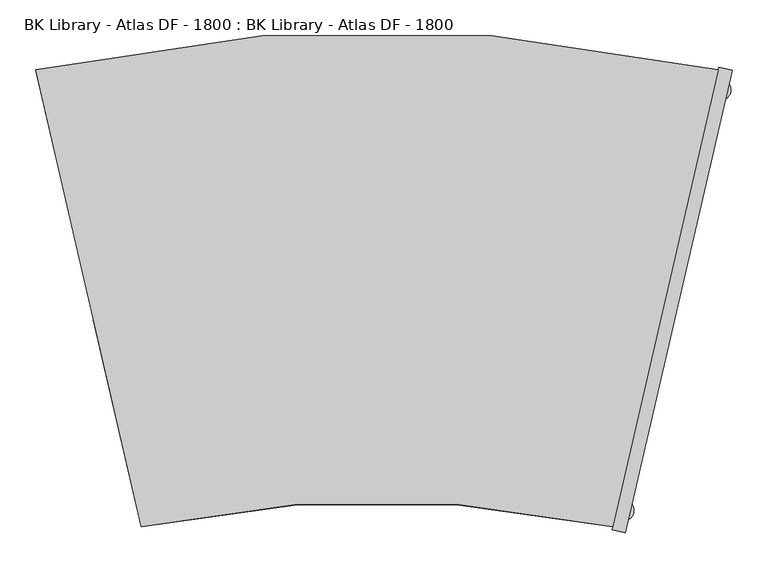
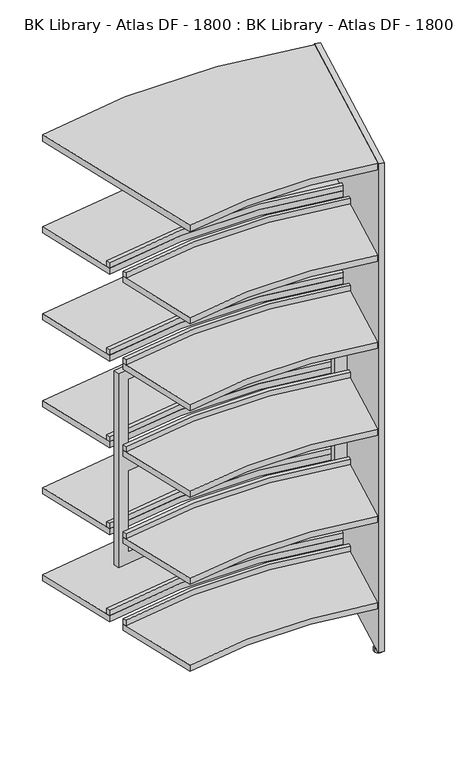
"""IFC4 building model written with IfcOpenShell, lengths in millimetres: furniture geometry, BK Library - Atlas DF - 1800 : BK Library - Atlas DF - 1800."""

import ifcopenshell
import ifcopenshell.guid

model = None  # the IFC model being written
_history = None  # IfcOwnerHistory: only IFC2X3 demands one
_inside = {}  # id of a spatial element -> (the spatial element, [elements in it])
_under = {}  # id of a project, library or spatial element -> (it, [spatial elements below it])
_declared = {}  # id of a project -> (the project, [libraries it declares])
_typed = {}  # id of a type object -> (the type object, [elements of that type])
_made_of = {}  # id of a material, layer set ... -> (it, [elements and type objects made of it])


def new_model(schema):
    """Start an empty IFC model of exactly this schema.

    Asked for "IFC4X3", IfcOpenShell would pick the latest addendum, in which some entities
    have other attributes; the version numbers below select the first issue.
    IFC2X3 requires an IfcOwnerHistory on every rooted entity: one is made here for all.
    """
    global model, _history
    if schema == "IFC4X3":
        model = ifcopenshell.file(schema_version=(4, 3, 0, 0))
    else:
        model = ifcopenshell.file(schema=schema)
    _inside.clear()
    _under.clear()
    _declared.clear()
    _typed.clear()
    _made_of.clear()
    _history = None
    if model.schema == "IFC2X3":
        org = make("IfcOrganization", Name="unknown")
        user = make(
            "IfcPersonAndOrganization",
            ThePerson=make("IfcPerson", FamilyName="unknown"),
            TheOrganization=org,
        )
        app = make(
            "IfcApplication",
            ApplicationDeveloper=org,
            Version="unknown",
            ApplicationFullName="unknown",
            ApplicationIdentifier="unknown",
        )
        _history = make(
            "IfcOwnerHistory",
            OwningUser=user,
            OwningApplication=app,
            ChangeAction="ADDED",
            CreationDate=0,
        )
    return model


def make(cls, **values):
    """One entity of the class cls with the attributes given. An attribute that is None is left unset."""
    return model.create_entity(
        cls, **{name: value for name, value in values.items() if value is not None}
    )


def rooted(cls, **values):
    """An entity with a GlobalId (a new one), such as an element, a storey or a relation."""
    return make(cls, GlobalId=ifcopenshell.guid.new(), OwnerHistory=_history, **values)


def si_unit(unit_type, name, prefix=None):
    """IfcSIUnit, for example si_unit("LENGTHUNIT", "METRE", prefix="MILLI")."""
    return make("IfcSIUnit", UnitType=unit_type, Prefix=prefix, Name=name)


def assignment(units):
    """IfcUnitAssignment: the units of a project."""
    return None if units is None else make("IfcUnitAssignment", Units=units)


def point(xyz):
    """IfcCartesianPoint."""
    return None if xyz is None else make("IfcCartesianPoint", Coordinates=xyz)


def direction(xyz):
    """IfcDirection."""
    return None if xyz is None else make("IfcDirection", DirectionRatios=xyz)


def frame(location, z_axis=None, x_axis=None):
    """IfcAxis2Placement3D, a coordinate frame: its origin and axes. An axis left out is left unset."""
    return make(
        "IfcAxis2Placement3D",
        Location=point(location),
        Axis=direction(z_axis),
        RefDirection=direction(x_axis),
    )


def frame_2d(location, x_axis=None):
    """IfcAxis2Placement2D, a coordinate frame in the plane: its origin and x axis."""
    return make(
        "IfcAxis2Placement2D", Location=point(location), RefDirection=direction(x_axis)
    )


def origin():
    """The frame at (0, 0, 0) with its axes left unset."""
    return frame((0.0, 0.0, 0.0))


def origin_with_axes():
    """The frame at (0, 0, 0) with the z axis (0, 0, 1) and the x axis (1, 0, 0) written out."""
    return frame((0.0, 0.0, 0.0), z_axis=(0.0, 0.0, 1.0), x_axis=(1.0, 0.0, 0.0))


def place(relative_to, where):
    """IfcLocalPlacement: puts the frame where relative to a parent placement (None: the world)."""
    return make(
        "IfcLocalPlacement", PlacementRelTo=relative_to, RelativePlacement=where
    )


def context(
    kind, dimensions, precision=None, world=None, true_north=None, identifier=None
):
    """IfcGeometricRepresentationContext, for example the 3D "Model" context."""
    return make(
        "IfcGeometricRepresentationContext",
        ContextIdentifier=identifier,
        ContextType=kind,
        CoordinateSpaceDimension=dimensions,
        Precision=precision,
        WorldCoordinateSystem=world,
        TrueNorth=true_north,
    )


def project(units=None, contexts=None):
    """IfcProject with its units and contexts."""
    return rooted(
        "IfcProject",
        Name="project",
        RepresentationContexts=contexts,
        UnitsInContext=assignment(units),
    )


def spatial(cls, under=None, at=None, **own):
    """A site, building, storey or space (cls), placed at a placement, below another one or the project."""
    s = rooted(cls, ObjectPlacement=at, **own)
    if under is not None:
        _under.setdefault(under.id(), (under, []))[1].append(s)
    return s


def polyline(points):
    """IfcPolyline through the points."""
    return make("IfcPolyline", Points=[point(p) for p in points])


def circle_curve(where, radius):
    """IfcCircle in the frame where."""
    return make("IfcCircle", Position=where, Radius=radius)


def trimmed(basis, trim1, trim2, sense, master):
    """IfcTrimmedCurve: the piece of a basis curve between two trims."""
    return make(
        "IfcTrimmedCurve",
        BasisCurve=basis,
        Trim1=trim1,
        Trim2=trim2,
        SenseAgreement=sense,
        MasterRepresentation=master,
    )


def segment(curve, same_sense, transition):
    """IfcCompositeCurveSegment."""
    return make(
        "IfcCompositeCurveSegment",
        Transition=transition,
        SameSense=same_sense,
        ParentCurve=curve,
    )


def composite_curve(segments, self_intersect=None):
    """IfcCompositeCurve: segments joined end to end."""
    return make("IfcCompositeCurve", Segments=segments, SelfIntersect=self_intersect)


def outline(outer, holes=None, kind="AREA"):
    """IfcArbitraryClosedProfileDef: a profile drawn as a closed curve; with holes, ...WithVoids."""
    if holes is None:
        return make("IfcArbitraryClosedProfileDef", ProfileType=kind, OuterCurve=outer)
    return make(
        "IfcArbitraryProfileDefWithVoids",
        ProfileType=kind,
        OuterCurve=outer,
        InnerCurves=holes,
    )


def extrude(swept, where, along, depth):
    """IfcExtrudedAreaSolid: the profile swept, set in the frame where, extruded along a direction by depth."""
    return make(
        "IfcExtrudedAreaSolid",
        SweptArea=swept,
        Position=where,
        ExtrudedDirection=direction(along),
        Depth=depth,
    )


def shape(context_of_items, identifier, shape_type, items):
    """IfcShapeRepresentation: the items that make up one representation, for example the "Body"."""
    return make(
        "IfcShapeRepresentation",
        ContextOfItems=context_of_items,
        RepresentationIdentifier=identifier,
        RepresentationType=shape_type,
        Items=items,
    )


def source(mapping_origin, context_of_items, identifier, shape_type, items):
    """IfcRepresentationMap: a shape defined once, which mapped items show again and again."""
    return make(
        "IfcRepresentationMap",
        MappingOrigin=mapping_origin,
        MappedRepresentation=shape(context_of_items, identifier, shape_type, items),
    )


def transform(
    local_origin,
    x_axis=None,
    y_axis=None,
    z_axis=None,
    scale=None,
    scale2=None,
    scale3=None,
    uniform=True,
):
    """IfcCartesianTransformationOperator3D, or its non-uniform kind. x_axis, y_axis, z_axis: its Axis1, 2, 3."""
    if uniform:
        return make(
            "IfcCartesianTransformationOperator3D",
            Axis1=direction(x_axis),
            Axis2=direction(y_axis),
            LocalOrigin=point(local_origin),
            Scale=scale,
            Axis3=direction(z_axis),
        )
    return make(
        "IfcCartesianTransformationOperator3DnonUniform",
        Axis1=direction(x_axis),
        Axis2=direction(y_axis),
        LocalOrigin=point(local_origin),
        Scale=scale,
        Axis3=direction(z_axis),
        Scale2=scale2,
        Scale3=scale3,
    )


def mapped(mapping_source, mapping_target):
    """IfcMappedItem: shows the shape of a source again, moved by a transform."""
    return make(
        "IfcMappedItem", MappingSource=mapping_source, MappingTarget=mapping_target
    )


def made_of(thing, what):
    """Note that an element or type object is made of a material, layer set ...; save() writes the relation."""
    if what is not None:
        _made_of.setdefault(what.id(), (what, []))[1].append(thing)
    return thing


def element(
    cls,
    number,
    at=None,
    inside=None,
    cuts=None,
    type_object=None,
    material=None,
    context=None,
    identifier="Body",
    shape_type=None,
    held_by="IfcProductDefinitionShape",
    body=None,
    shapes=None,
    **own,
):
    """One element of the class cls, such as IfcWall. Its Tag is "e" and its number.

    at: its placement. inside: the storey or other place that contains it. cuts: it is an
    opening in that element (IfcRelVoidsElement). A single representation is given by context,
    identifier, shape_type and body (its items); several are given by shapes. held_by: the class
    of the entity that holds the representations. save() writes the other relations.
    """
    e = rooted(cls, Tag="e%d" % number, ObjectPlacement=at, **own)
    if body is not None:
        shapes = [shape(context, identifier, shape_type, body)]
    if shapes is not None:
        e.Representation = make(held_by, Representations=shapes)
    if inside is not None:
        _inside.setdefault(inside.id(), (inside, []))[1].append(e)
    if cuts is not None:
        rooted(
            "IfcRelVoidsElement", RelatingBuildingElement=cuts, RelatedOpeningElement=e
        )
    if type_object is not None:
        _typed.setdefault(type_object.id(), (type_object, []))[1].append(e)
    return made_of(e, material)


def aggregate(whole, parts):
    """IfcRelAggregates: a whole, such as a stair, and the parts it consists of."""
    return rooted("IfcRelAggregates", RelatingObject=whole, RelatedObjects=parts)


def save(model, path):
    """Write the relations noted so far, then the file.

    IfcRelAggregates (storeys below a building ...), IfcRelContainedInSpatialStructure (elements
    in a storey), IfcRelDefinesByType, IfcRelAssociatesMaterial and IfcRelDeclares: one each for
    every whole, place, type object, material and project.
    """
    for whole, parts in _under.values():
        aggregate(whole, parts)
    for where, things in _inside.values():
        rooted(
            "IfcRelContainedInSpatialStructure",
            RelatedElements=things,
            RelatingStructure=where,
        )
    for kind, things in _typed.values():
        rooted("IfcRelDefinesByType", RelatedObjects=things, RelatingType=kind)
    for what, things in _made_of.values():
        rooted("IfcRelAssociatesMaterial", RelatedObjects=things, RelatingMaterial=what)
    for by, libraries in _declared.values():
        rooted("IfcRelDeclares", RelatingContext=by, RelatedDefinitions=libraries)
    model.write(path)


def plane_surface(at):
    """IfcPlane: the flat surface through the origin of the frame at, square to its z axis."""
    return make("IfcPlane", Position=at)


def cylinder_surface(at, radius):
    """IfcCylindricalSurface: all points at the distance radius from the z axis of the frame at."""
    return make("IfcCylindricalSurface", Position=at, Radius=radius)


def revolved_surface(curve, axis_point, axis_direction):
    """IfcSurfaceOfRevolution: the curve turned about the line through axis_point along axis_direction."""
    return make(
        "IfcSurfaceOfRevolution",
        SweptCurve=make("IfcArbitraryOpenProfileDef", ProfileType="CURVE", Curve=curve),
        AxisPosition=make("IfcAxis1Placement", Location=point(axis_point), Axis=direction(axis_direction)),
    )


def advanced_brep(points, edges, surfaces, faces):
    """IfcAdvancedBrep: a solid bounded by faces that lie on surfaces and meet in shared edges.

    An edge is (start, end): straight between two places in points (the first is 0);
    or (start, end, curve); or (start, end, curve, False) where it runs against its curve.
    A face is (place in surfaces, loops), or (place, loops, False) where it looks against
    its surface's normal. A loop lists edges by number (the first is 1), with a minus sign
    where the edge is run from its end to its start. The first loop is the outer one.
    """
    corners = [point(p) for p in points]
    vertices = [make("IfcVertexPoint", VertexGeometry=c) for c in corners]
    made = []
    for start, end, *more in edges:
        made.append(
            make(
                "IfcEdgeCurve",
                EdgeStart=vertices[start],
                EdgeEnd=vertices[end],
                EdgeGeometry=more[0] if more else make("IfcPolyline", Points=[corners[start], corners[end]]),
                SameSense=more[1] if len(more) > 1 else True,
            )
        )
    hull = []
    for where, loops, *sense in faces:
        bounds = []
        for j, loop in enumerate(loops):
            ring = [make("IfcOrientedEdge", EdgeElement=made[abs(k) - 1], Orientation=k > 0) for k in loop]
            bounds.append(
                make(
                    "IfcFaceOuterBound" if j == 0 else "IfcFaceBound",
                    Bound=make("IfcEdgeLoop", EdgeList=ring),
                    Orientation=True,
                )
            )
        hull.append(make("IfcAdvancedFace", Bounds=bounds, FaceSurface=surfaces[where], SameSense=sense[0] if sense else True))
    return make("IfcAdvancedBrep", Outer=make("IfcClosedShell", CfsFaces=hull))


def bk_library_atlas_df_1800_bk_library_atlas_df_1800_6cbebfb4(model_context):
    return source(origin(), model_context, "Body", "SolidModel", [
        advanced_brep(
        [(-403.1922937, 9.7442892, 1106.1999998), (-398.6983746, -9.7442892, 1106.1999998), (398.6983746, -9.7442892, 1106.1999998), (403.1922937, 9.7442892, 1106.1999998), (-403.1922937, 9.7442892, 391.1999998), (403.1922937, 9.7442892, 391.1999998), (398.6983746, -9.7442892, 391.1999998), (-398.6983746, -9.7442892, 391.1999998), (359.7000463, -1.6061954, 1066.1999998), (359.7000463, -1.6061954, 768.6999998), (-359.7212176, -1.6103769, 768.6999998), (-359.7212176, -1.6103769, 1066.1999998), (-359.7212176, -1.6103769, 728.6999998), (359.7000463, -1.6061954, 728.6999998), (359.7000463, -1.6061954, 431.1999998), (-359.7212176, -1.6103769, 431.1999998), (359.7000463, 18.8192746, 768.6999998), (359.7000463, 18.8192746, 1066.1999998), (-359.7212176, 18.8151191, 1066.1999998), (-359.7212176, 18.8151191, 768.6999998), (359.7000463, 18.8192746, 728.6999998), (-359.7212176, 18.8151191, 728.6999998), (-359.7212176, 18.8151191, 431.1999998), (359.7000463, 18.8192746, 431.1999998)],
        [
            (0, 1),
            (1, 2, circle_curve(frame((0.0, -1822.824997, 1106.1999998), z_axis=(0.0, 0.0, -1.0), x_axis=(1.0, 0.0, 0.0)), 1856.4002927)),
            (2, 3),
            (3, 0, circle_curve(frame((0.0, -1813.8149651, 1106.1999998), z_axis=(0.0, 0.0, 1.0), x_axis=(1.0, 0.0, 0.0)), 1867.6007014)),
            (4, 5, circle_curve(frame((0.0, -1813.8149651, 391.1999998), z_axis=(0.0, 0.0, -1.0), x_axis=(1.0, 0.0, 0.0)), 1867.6007014)),
            (5, 6),
            (6, 7, circle_curve(frame((0.0, -1822.824997, 391.1999998), z_axis=(0.0, 0.0, 1.0), x_axis=(1.0, 0.0, 0.0)), 1856.4002927)),
            (7, 4),
            (0, 4),
            (7, 1),
            (2, 6),
            (5, 3),
            (8, 9),
            (9, 10, circle_curve(frame((0.0, -1822.824997, 768.6999998), z_axis=(0.0, 0.0, 1.0), x_axis=(1.0, 0.0, 0.0)), 1856.4002927)),
            (10, 11),
            (11, 8, circle_curve(frame((0.0, -1822.824997, 1066.1999998), z_axis=(0.0, 0.0, -1.0), x_axis=(1.0, 0.0, 0.0)), 1856.4002927)),
            (12, 13, circle_curve(frame((0.0, -1822.824997, 728.6999998), z_axis=(0.0, 0.0, -1.0), x_axis=(1.0, 0.0, 0.0)), 1856.4002927)),
            (13, 14),
            (14, 15, circle_curve(frame((0.0, -1822.824997, 431.1999998), z_axis=(0.0, 0.0, 1.0), x_axis=(1.0, 0.0, 0.0)), 1856.4002927)),
            (15, 12),
            (16, 17),
            (17, 18, circle_curve(frame((0.0, -1813.8149651, 1066.1999998), z_axis=(0.0, 0.0, 1.0), x_axis=(1.0, 0.0, 0.0)), 1867.6007014)),
            (18, 19),
            (19, 16, circle_curve(frame((0.0, -1813.8149651, 768.6999998), z_axis=(0.0, 0.0, -1.0), x_axis=(1.0, 0.0, 0.0)), 1867.6007014)),
            (20, 21, circle_curve(frame((0.0, -1813.8149651, 728.6999998), z_axis=(0.0, 0.0, 1.0), x_axis=(1.0, 0.0, 0.0)), 1867.6007014)),
            (21, 22),
            (22, 23, circle_curve(frame((0.0, -1813.8149651, 431.1999998), z_axis=(0.0, 0.0, -1.0), x_axis=(1.0, 0.0, 0.0)), 1867.6007014)),
            (23, 20),
            (16, 9),
            (8, 17),
            (11, 18),
            (10, 19),
            (20, 13),
            (12, 21),
            (15, 22),
            (14, 23),
        ],
        [
            plane_surface(frame((-326.7956683, -321.5615447, 1106.1999998), z_axis=(0.0, 0.0, 1.0), x_axis=(0.224695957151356, -0.9744289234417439, 0.0))),
            plane_surface(frame((-326.7956683, -321.5615447, 391.1999998), z_axis=(0.0, 0.0, -1.0), x_axis=(-0.224695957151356, 0.9744289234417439, 0.0))),
            plane_surface(frame((-403.1922937, 9.7442892, 1106.1999998), z_axis=(-0.9744289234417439, -0.224695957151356, 0.0), x_axis=(0.0, 0.0, -1.0))),
            plane_surface(frame((398.6983746, -9.7442892, 1106.1999998), z_axis=(0.974428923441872, -0.22469595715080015, 0.0), x_axis=(0.0, 0.0, -1.0))),
            revolved_surface(polyline([(1856.4002927, -1822.824997, 391.1999998), (1856.4002927, -1822.824997, 1106.1999998)]), (0.0, -1822.824997, 391.1999998), (0.0, 0.0, -1.0)),
            cylinder_surface(frame((0.0, -1813.8149651, 391.1999998), z_axis=(0.0, 0.0, 1.0), x_axis=(1.0, 0.0, 0.0)), 1867.6007014),
            plane_surface(frame((359.7000463, -114.4923923, 768.6999998), z_axis=(-1.0, 0.0, 0.0), x_axis=(0.0, 1.0, 0.0))),
            plane_surface(frame((359.7000463, -114.4923923, 1066.1999998), z_axis=(0.0, 0.0, -1.0), x_axis=(0.0, 1.0, 0.0))),
            plane_surface(frame((-359.7212176, -114.4923923, 1066.1999998), z_axis=(1.0, 0.0, 0.0), x_axis=(0.0, 1.0, 0.0))),
            plane_surface(frame((-359.7212176, -114.4923923, 768.6999998), z_axis=(0.0, 0.0, 1.0), x_axis=(0.0, 1.0, 0.0))),
            plane_surface(frame((359.7000463, -114.4923923, 728.6999998), z_axis=(0.0, 0.0, -1.0), x_axis=(0.0, 1.0, 0.0))),
            plane_surface(frame((-359.7212176, -114.4923923, 728.6999998), z_axis=(1.0, 0.0, 0.0), x_axis=(0.0, 1.0, 0.0))),
            plane_surface(frame((-359.7212176, -114.4923923, 431.1999998), z_axis=(0.0, 0.0, 1.0), x_axis=(0.0, 1.0, 0.0))),
            plane_surface(frame((359.7000463, -114.4923923, 431.1999998), z_axis=(-1.0, 0.0, 0.0), x_axis=(0.0, 1.0, 0.0))),
        ],
        [
            (0, [[1, 2, 3, 4]]),
            (1, [[5, 6, 7, 8]]),
            (2, [[-1, 9, -8, 10]]),
            (3, [[-3, 11, -6, 12]]),
            (4, [[-2, -10, -7, -11], [13, 14, 15, 16], [17, 18, 19, 20]]),
            (5, [[-4, -12, -5, -9], [21, 22, 23, 24], [25, 26, 27, 28]]),
            (6, [[29, -13, 30, -21]]),
            (7, [[-30, -16, 31, -22]]),
            (8, [[-31, -15, 32, -23]]),
            (9, [[-29, -24, -32, -14]]),
            (10, [[33, -17, 34, -25]]),
            (11, [[-34, -20, 35, -26]]),
            (12, [[-35, -19, 36, -27]]),
            (13, [[-33, -28, -36, -18]]),
        ],
    ),
        extrude(outline(composite_curve([segment(trimmed(circle_curve(frame_2d((0.0, -1840.4430404)), 1557.6392973), [point((327.6944521, -317.663829))], [point((-327.6944521, -317.663829))], True, "CARTESIAN"), True, "CONTINUOUS"), segment(polyline([(-327.6944521, -317.663829), (-394.2058088, -29.2269986)]), True, "CONTINUOUS"), segment(trimmed(circle_curve(frame_2d((0.0, -1785.1487517)), 1799.627579), [point((-394.2058088, -29.2269986))], [point((394.2058088, -29.2269986))], False, "CARTESIAN"), True, "CONTINUOUS"), segment(polyline([(394.2058088, -29.2269986), (327.6944521, -317.663829)]), True, "CONTINUOUS")], self_intersect=False)), frame((0.0, 0.0, 171.6999998), z_axis=(0.0, 0.0, 1.0), x_axis=(1.0, 0.0, 0.0)), (0.0, 0.0, 1.0), 22.0),
        extrude(outline(composite_curve([segment(trimmed(circle_curve(frame_2d((0.0, -1777.8812307)), 2148.52767), [point((-474.1962162, 317.663829))], [point((474.1962162, 317.663829))], False, "CARTESIAN"), True, "CONTINUOUS"), segment(polyline([(474.1962162, 317.663829), (407.6853202, 29.2289965)]), True, "CONTINUOUS"), segment(trimmed(circle_curve(frame_2d((0.0, -1798.2835703)), 1872.4341116), [point((407.6853202, 29.2289965))], [point((-407.6853202, 29.2289965))], True, "CARTESIAN"), True, "CONTINUOUS"), segment(polyline([(-407.6853202, 29.2289965), (-474.1962162, 317.663829)]), True, "CONTINUOUS")], self_intersect=False)), frame((0.0, 0.0, 171.6999998), z_axis=(0.0, 0.0, 1.0), x_axis=(1.0, 0.0, 0.0)), (0.0, 0.0, 1.0), 22.0),
        extrude(outline(composite_curve([segment(trimmed(circle_curve(frame_2d((0.0, -1840.4430404)), 1557.6392973), [point((327.6944521, -317.663829))], [point((-327.6944521, -317.663829))], True, "CARTESIAN"), True, "CONTINUOUS"), segment(polyline([(-327.6944521, -317.663829), (-394.2058088, -29.2269986)]), True, "CONTINUOUS"), segment(trimmed(circle_curve(frame_2d((0.0, -1785.1487517)), 1799.627579), [point((-394.2058088, -29.2269986))], [point((394.2058088, -29.2269986))], False, "CARTESIAN"), True, "CONTINUOUS"), segment(polyline([(394.2058088, -29.2269986), (327.6944521, -317.663829)]), True, "CONTINUOUS")], self_intersect=False)), frame((0.0, 0.0, 491.6999998), z_axis=(0.0, 0.0, 1.0), x_axis=(1.0, 0.0, 0.0)), (0.0, 0.0, 1.0), 22.0),
        extrude(outline(composite_curve([segment(trimmed(circle_curve(frame_2d((0.0, -1777.8812307)), 2148.52767), [point((-474.1962162, 317.663829))], [point((474.1962162, 317.663829))], False, "CARTESIAN"), True, "CONTINUOUS"), segment(polyline([(474.1962162, 317.663829), (407.6853202, 29.2289965)]), True, "CONTINUOUS"), segment(trimmed(circle_curve(frame_2d((0.0, -1798.2835703)), 1872.4341116), [point((407.6853202, 29.2289965))], [point((-407.6853202, 29.2289965))], True, "CARTESIAN"), True, "CONTINUOUS"), segment(polyline([(-407.6853202, 29.2289965), (-474.1962162, 317.663829)]), True, "CONTINUOUS")], self_intersect=False)), frame((0.0, 0.0, 491.6999998), z_axis=(0.0, 0.0, 1.0), x_axis=(1.0, 0.0, 0.0)), (0.0, 0.0, 1.0), 22.0),
        extrude(outline(composite_curve([segment(trimmed(circle_curve(frame_2d((0.0, -1840.4430404)), 1557.6392973), [point((327.6944521, -317.663829))], [point((-327.6944521, -317.663829))], True, "CARTESIAN"), True, "CONTINUOUS"), segment(polyline([(-327.6944521, -317.663829), (-394.2058088, -29.2269986)]), True, "CONTINUOUS"), segment(trimmed(circle_curve(frame_2d((0.0, -1785.1487517)), 1799.627579), [point((-394.2058088, -29.2269986))], [point((394.2058088, -29.2269986))], False, "CARTESIAN"), True, "CONTINUOUS"), segment(polyline([(394.2058088, -29.2269986), (327.6944521, -317.663829)]), True, "CONTINUOUS")], self_intersect=False)), frame((0.0, 0.0, 811.6999998), z_axis=(0.0, 0.0, 1.0), x_axis=(1.0, 0.0, 0.0)), (0.0, 0.0, 1.0), 22.0),
        extrude(outline(composite_curve([segment(trimmed(circle_curve(frame_2d((0.0, -1777.8812307)), 2148.52767), [point((-474.1962162, 317.663829))], [point((474.1962162, 317.663829))], False, "CARTESIAN"), True, "CONTINUOUS"), segment(polyline([(474.1962162, 317.663829), (407.6853202, 29.2289965)]), True, "CONTINUOUS"), segment(trimmed(circle_curve(frame_2d((0.0, -1798.2835703)), 1872.4341116), [point((407.6853202, 29.2289965))], [point((-407.6853202, 29.2289965))], True, "CARTESIAN"), True, "CONTINUOUS"), segment(polyline([(-407.6853202, 29.2289965), (-474.1962162, 317.663829)]), True, "CONTINUOUS")], self_intersect=False)), frame((0.0, 0.0, 811.6999998), z_axis=(0.0, 0.0, 1.0), x_axis=(1.0, 0.0, 0.0)), (0.0, 0.0, 1.0), 22.0),
        extrude(outline(composite_curve([segment(trimmed(circle_curve(frame_2d((0.0, -1840.4430404)), 1557.6392973), [point((327.6944521, -317.663829))], [point((-327.6944521, -317.663829))], True, "CARTESIAN"), True, "CONTINUOUS"), segment(polyline([(-327.6944521, -317.663829), (-394.2058088, -29.2269986)]), True, "CONTINUOUS"), segment(trimmed(circle_curve(frame_2d((0.0, -1785.1487517)), 1799.627579), [point((-394.2058088, -29.2269986))], [point((394.2058088, -29.2269986))], False, "CARTESIAN"), True, "CONTINUOUS"), segment(polyline([(394.2058088, -29.2269986), (327.6944521, -317.663829)]), True, "CONTINUOUS")], self_intersect=False)), frame((0.0, 0.0, 1131.6999998), z_axis=(0.0, 0.0, 1.0), x_axis=(1.0, 0.0, 0.0)), (0.0, 0.0, 1.0), 22.0),
        extrude(outline(composite_curve([segment(trimmed(circle_curve(frame_2d((0.0, -1777.8812307)), 2148.52767), [point((-474.1962162, 317.663829))], [point((474.1962162, 317.663829))], False, "CARTESIAN"), True, "CONTINUOUS"), segment(polyline([(474.1962162, 317.663829), (407.6853202, 29.2289965)]), True, "CONTINUOUS"), segment(trimmed(circle_curve(frame_2d((0.0, -1798.2835703)), 1872.4341116), [point((407.6853202, 29.2289965))], [point((-407.6853202, 29.2289965))], True, "CARTESIAN"), True, "CONTINUOUS"), segment(polyline([(-407.6853202, 29.2289965), (-474.1962162, 317.663829)]), True, "CONTINUOUS")], self_intersect=False)), frame((0.0, 0.0, 1131.6999998), z_axis=(0.0, 0.0, 1.0), x_axis=(1.0, 0.0, 0.0)), (0.0, 0.0, 1.0), 22.0),
        extrude(outline(composite_curve([segment(trimmed(circle_curve(frame_2d((0.0, -1840.4430404)), 1557.6392973), [point((327.6944521, -317.663829))], [point((-327.6944521, -317.663829))], True, "CARTESIAN"), True, "CONTINUOUS"), segment(polyline([(-327.6944521, -317.663829), (-394.2058088, -29.2269986)]), True, "CONTINUOUS"), segment(trimmed(circle_curve(frame_2d((0.0, -1785.1487517)), 1799.627579), [point((-394.2058088, -29.2269986))], [point((394.2058088, -29.2269986))], False, "CARTESIAN"), True, "CONTINUOUS"), segment(polyline([(394.2058088, -29.2269986), (327.6944521, -317.663829)]), True, "CONTINUOUS")], self_intersect=False)), frame((0.0, 0.0, 1451.6999998), z_axis=(0.0, 0.0, 1.0), x_axis=(1.0, 0.0, 0.0)), (0.0, 0.0, 1.0), 22.0),
        extrude(outline(composite_curve([segment(trimmed(circle_curve(frame_2d((0.0, -1777.8812307)), 2148.52767), [point((-474.1962162, 317.663829))], [point((474.1962162, 317.663829))], False, "CARTESIAN"), True, "CONTINUOUS"), segment(polyline([(474.1962162, 317.663829), (407.6853202, 29.2289965)]), True, "CONTINUOUS"), segment(trimmed(circle_curve(frame_2d((0.0, -1798.2835703)), 1872.4341116), [point((407.6853202, 29.2289965))], [point((-407.6853202, 29.2289965))], True, "CARTESIAN"), True, "CONTINUOUS"), segment(polyline([(-407.6853202, 29.2289965), (-474.1962162, 317.663829)]), True, "CONTINUOUS")], self_intersect=False)), frame((0.0, 0.0, 1451.6999998), z_axis=(0.0, 0.0, 1.0), x_axis=(1.0, 0.0, 0.0)), (0.0, 0.0, 1.0), 22.0),
        extrude(outline(composite_curve([segment(trimmed(circle_curve(frame_2d((0.0, -1785.1487517)), 1799.627579), [point((-394.2058088, -29.2269986))], [point((394.2058088, -29.2269986))], False, "CARTESIAN"), True, "CONTINUOUS"), segment(polyline([(394.2058088, -29.2269986), (391.2848087, -41.8943694)]), True, "CONTINUOUS"), segment(trimmed(circle_curve(frame_2d((0.0, -1790.5831955)), 1791.9309172), [point((391.2848087, -41.8943694))], [point((-391.2848087, -41.8943694))], True, "CARTESIAN"), True, "CONTINUOUS"), segment(polyline([(-391.2848087, -41.8943694), (-394.2058088, -29.2269986)]), True, "CONTINUOUS")], self_intersect=False)), frame((0.0, 0.0, 193.6999998), z_axis=(0.0, 0.0, 1.0), x_axis=(1.0, 0.0, 0.0)), (0.0, 0.0, 1.0), 20.0),
        extrude(outline(composite_curve([segment(trimmed(circle_curve(frame_2d((0.0, -1776.6858327)), 1864.3585062), [point((-410.605951, 41.8947656))], [point((410.605951, 41.8947656))], False, "CARTESIAN"), True, "CONTINUOUS"), segment(polyline([(410.605951, 41.8947656), (407.6853202, 29.2289965)]), True, "CONTINUOUS"), segment(trimmed(circle_curve(frame_2d((0.0, -1798.2835703)), 1872.4341116), [point((407.6853202, 29.2289965))], [point((-407.6853202, 29.2289965))], True, "CARTESIAN"), True, "CONTINUOUS"), segment(polyline([(-407.6853202, 29.2289965), (-410.605951, 41.8947656)]), True, "CONTINUOUS")], self_intersect=False)), frame((0.0, 0.0, 193.6999998), z_axis=(0.0, 0.0, 1.0), x_axis=(1.0, 0.0, 0.0)), (0.0, 0.0, 1.0), 20.0),
        extrude(outline(composite_curve([segment(trimmed(circle_curve(frame_2d((0.0, -1785.1487517)), 1799.627579), [point((-394.2058088, -29.2269986))], [point((394.2058088, -29.2269986))], False, "CARTESIAN"), True, "CONTINUOUS"), segment(polyline([(394.2058088, -29.2269986), (391.2848087, -41.8943694)]), True, "CONTINUOUS"), segment(trimmed(circle_curve(frame_2d((0.0, -1790.5831955)), 1791.9309172), [point((391.2848087, -41.8943694))], [point((-391.2848087, -41.8943694))], True, "CARTESIAN"), True, "CONTINUOUS"), segment(polyline([(-391.2848087, -41.8943694), (-394.2058088, -29.2269986)]), True, "CONTINUOUS")], self_intersect=False)), frame((0.0, 0.0, 513.6999998), z_axis=(0.0, 0.0, 1.0), x_axis=(1.0, 0.0, 0.0)), (0.0, 0.0, 1.0), 20.0),
        extrude(outline(composite_curve([segment(trimmed(circle_curve(frame_2d((0.0, -1776.6858327)), 1864.3585062), [point((-410.605951, 41.8947656))], [point((410.605951, 41.8947656))], False, "CARTESIAN"), True, "CONTINUOUS"), segment(polyline([(410.605951, 41.8947656), (407.6853202, 29.2289965)]), True, "CONTINUOUS"), segment(trimmed(circle_curve(frame_2d((0.0, -1798.2835703)), 1872.4341116), [point((407.6853202, 29.2289965))], [point((-407.6853202, 29.2289965))], True, "CARTESIAN"), True, "CONTINUOUS"), segment(polyline([(-407.6853202, 29.2289965), (-410.605951, 41.8947656)]), True, "CONTINUOUS")], self_intersect=False)), frame((0.0, 0.0, 513.6999998), z_axis=(0.0, 0.0, 1.0), x_axis=(1.0, 0.0, 0.0)), (0.0, 0.0, 1.0), 20.0),
        extrude(outline(composite_curve([segment(trimmed(circle_curve(frame_2d((0.0, -1785.1487517)), 1799.627579), [point((-394.2058088, -29.2269986))], [point((394.2058088, -29.2269986))], False, "CARTESIAN"), True, "CONTINUOUS"), segment(polyline([(394.2058088, -29.2269986), (391.2848087, -41.8943694)]), True, "CONTINUOUS"), segment(trimmed(circle_curve(frame_2d((0.0, -1790.5831955)), 1791.9309172), [point((391.2848087, -41.8943694))], [point((-391.2848087, -41.8943694))], True, "CARTESIAN"), True, "CONTINUOUS"), segment(polyline([(-391.2848087, -41.8943694), (-394.2058088, -29.2269986)]), True, "CONTINUOUS")], self_intersect=False)), frame((0.0, 0.0, 833.6999998), z_axis=(0.0, 0.0, 1.0), x_axis=(1.0, 0.0, 0.0)), (0.0, 0.0, 1.0), 20.0),
        extrude(outline(composite_curve([segment(trimmed(circle_curve(frame_2d((0.0, -1776.6858327)), 1864.3585062), [point((-410.605951, 41.8947656))], [point((410.605951, 41.8947656))], False, "CARTESIAN"), True, "CONTINUOUS"), segment(polyline([(410.605951, 41.8947656), (407.6853202, 29.2289965)]), True, "CONTINUOUS"), segment(trimmed(circle_curve(frame_2d((0.0, -1798.2835703)), 1872.4341116), [point((407.6853202, 29.2289965))], [point((-407.6853202, 29.2289965))], True, "CARTESIAN"), True, "CONTINUOUS"), segment(polyline([(-407.6853202, 29.2289965), (-410.605951, 41.8947656)]), True, "CONTINUOUS")], self_intersect=False)), frame((0.0, 0.0, 833.6999998), z_axis=(0.0, 0.0, 1.0), x_axis=(1.0, 0.0, 0.0)), (0.0, 0.0, 1.0), 20.0),
        extrude(outline(composite_curve([segment(trimmed(circle_curve(frame_2d((0.0, -1785.1487517)), 1799.627579), [point((-394.2058088, -29.2269986))], [point((394.2058088, -29.2269986))], False, "CARTESIAN"), True, "CONTINUOUS"), segment(polyline([(394.2058088, -29.2269986), (391.2848087, -41.8943694)]), True, "CONTINUOUS"), segment(trimmed(circle_curve(frame_2d((0.0, -1790.5831955)), 1791.9309172), [point((391.2848087, -41.8943694))], [point((-391.2848087, -41.8943694))], True, "CARTESIAN"), True, "CONTINUOUS"), segment(polyline([(-391.2848087, -41.8943694), (-394.2058088, -29.2269986)]), True, "CONTINUOUS")], self_intersect=False)), frame((0.0, 0.0, 1153.6999998), z_axis=(0.0, 0.0, 1.0), x_axis=(1.0, 0.0, 0.0)), (0.0, 0.0, 1.0), 20.0),
        extrude(outline(composite_curve([segment(trimmed(circle_curve(frame_2d((0.0, -1776.6858327)), 1864.3585062), [point((-410.605951, 41.8947656))], [point((410.605951, 41.8947656))], False, "CARTESIAN"), True, "CONTINUOUS"), segment(polyline([(410.605951, 41.8947656), (407.6853202, 29.2289965)]), True, "CONTINUOUS"), segment(trimmed(circle_curve(frame_2d((0.0, -1798.2835703)), 1872.4341116), [point((407.6853202, 29.2289965))], [point((-407.6853202, 29.2289965))], True, "CARTESIAN"), True, "CONTINUOUS"), segment(polyline([(-407.6853202, 29.2289965), (-410.605951, 41.8947656)]), True, "CONTINUOUS")], self_intersect=False)), frame((0.0, 0.0, 1153.6999998), z_axis=(0.0, 0.0, 1.0), x_axis=(1.0, 0.0, 0.0)), (0.0, 0.0, 1.0), 20.0),
        extrude(outline(composite_curve([segment(trimmed(circle_curve(frame_2d((0.0, -1785.1487517)), 1799.627579), [point((-394.2058088, -29.2269986))], [point((394.2058088, -29.2269986))], False, "CARTESIAN"), True, "CONTINUOUS"), segment(polyline([(394.2058088, -29.2269986), (391.2848087, -41.8943694)]), True, "CONTINUOUS"), segment(trimmed(circle_curve(frame_2d((0.0, -1790.5831955)), 1791.9309172), [point((391.2848087, -41.8943694))], [point((-391.2848087, -41.8943694))], True, "CARTESIAN"), True, "CONTINUOUS"), segment(polyline([(-391.2848087, -41.8943694), (-394.2058088, -29.2269986)]), True, "CONTINUOUS")], self_intersect=False)), frame((0.0, 0.0, 1473.6999998), z_axis=(0.0, 0.0, 1.0), x_axis=(1.0, 0.0, 0.0)), (0.0, 0.0, 1.0), 20.0),
        extrude(outline(composite_curve([segment(trimmed(circle_curve(frame_2d((0.0, -1776.6858327)), 1864.3585062), [point((-410.605951, 41.8947656))], [point((410.605951, 41.8947656))], False, "CARTESIAN"), True, "CONTINUOUS"), segment(polyline([(410.605951, 41.8947656), (407.6853202, 29.2289965)]), True, "CONTINUOUS"), segment(trimmed(circle_curve(frame_2d((0.0, -1798.2835703)), 1872.4341116), [point((407.6853202, 29.2289965))], [point((-407.6853202, 29.2289965))], True, "CARTESIAN"), True, "CONTINUOUS"), segment(polyline([(-407.6853202, 29.2289965), (-410.605951, 41.8947656)]), True, "CONTINUOUS")], self_intersect=False)), frame((0.0, 0.0, 1473.6999998), z_axis=(0.0, 0.0, 1.0), x_axis=(1.0, 0.0, 0.0)), (0.0, 0.0, 1.0), 20.0),
        extrude(outline(composite_curve([segment(trimmed(circle_curve(frame_2d((0.0, -1777.8812307)), 2148.52767), [point((-474.1962162, 317.663829))], [point((474.1962162, 317.663829))], False, "CARTESIAN"), True, "CONTINUOUS"), segment(polyline([(474.1962162, 317.663829), (327.6944521, -317.663829)]), True, "CONTINUOUS"), segment(trimmed(circle_curve(frame_2d((0.0, -1840.4430404)), 1557.6392973), [point((327.6944521, -317.663829))], [point((-327.6944521, -317.663829))], True, "CARTESIAN"), True, "CONTINUOUS"), segment(polyline([(-327.6944521, -317.663829), (-474.1962162, 317.663829)]), True, "CONTINUOUS")], self_intersect=False)), frame((0.0, 0.0, 1789.6999998), z_axis=(0.0, 0.0, 1.0), x_axis=(1.0, 0.0, 0.0)), (0.0, 0.0, 1.0), 24.0),
        extrude(outline(polyline([(475.095, 321.5615447), (493.6091495, 317.2923215), (345.3098178, -325.8307679), (326.7956683, -321.5615447), (475.095, 321.5615447)])), frame((0.0, 0.0, 13.6999998), z_axis=(0.0, 0.0, 1.0), x_axis=(1.0, 0.0, 0.0)), (0.0, 0.0, 1.0), 1800.0),
        extrude(outline(composite_curve([segment(trimmed(circle_curve(frame_2d((477.608406, 290.1883722)), 14.4994573), [point((492.1078633, 290.1883722))], [point((463.1089486, 290.1883722))], False, "CARTESIAN"), True, "CONTINUOUS"), segment(trimmed(circle_curve(frame_2d((477.608406, 290.1883722)), 14.4994573), [point((463.1089486, 290.1883722))], [point((492.1078633, 290.1883722))], False, "CARTESIAN"), True, "CONTINUOUS")], self_intersect=False)), origin_with_axes(), (0.0, 0.0, 1.0), 13.6999998),
        extrude(outline(composite_curve([segment(trimmed(circle_curve(frame_2d((342.7923392, -294.4590973)), 14.4994573), [point((357.2917965, -294.4590973))], [point((328.2928818, -294.4590973))], False, "CARTESIAN"), True, "CONTINUOUS"), segment(trimmed(circle_curve(frame_2d((342.7923392, -294.4590973)), 14.4994573), [point((328.2928818, -294.4590973))], [point((357.2917965, -294.4590973))], False, "CARTESIAN"), True, "CONTINUOUS")], self_intersect=False)), origin_with_axes(), (0.0, 0.0, 1.0), 13.6999998),
    ])


if __name__ == "__main__":
    model = new_model("IFC4")
    model_context = context("Model", 3, world=origin())
    ifc_project = project(units=[si_unit("LENGTHUNIT", "METRE", prefix="MILLI")], contexts=[model_context])
    site = spatial("IfcSite", under=ifc_project)
    building = spatial("IfcBuilding", under=site)
    placement = place(None, origin())
    bk_library_atlas_df_1800_bk_library_atlas_df_1800_shape = bk_library_atlas_df_1800_bk_library_atlas_df_1800_6cbebfb4(model_context)
    element("IfcFurniture", 1, ObjectType="BK Library - Atlas DF - 1800 : BK Library - Atlas DF - 1800", at=placement, inside=building, context=model_context, shape_type="MappedRepresentation", body=[
        mapped(bk_library_atlas_df_1800_bk_library_atlas_df_1800_shape, transform((0.0, 0.0, 0.0), x_axis=(1.0, 0.0, 0.0), y_axis=(0.0, 1.0, 0.0), z_axis=(0.0, 0.0, 1.0))),
    ])
    save(model, "model.ifc")
